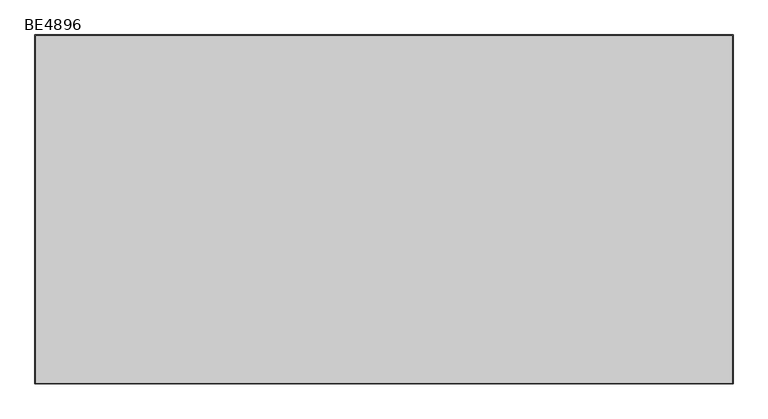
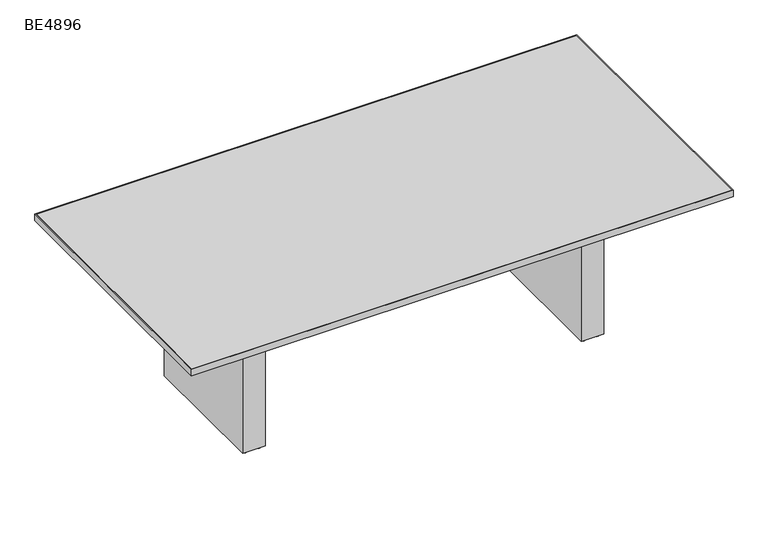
"""IFC4 building model written with IfcOpenShell, lengths in millimetres: furniture geometry, ERG-Beta-Conference_Table-Rectangle : BE4896."""

from ifc_helpers import new_model, si_unit, point, frame, frame_2d, origin, origin_with_axes, place, context, project, spatial, polyline, circle_curve, trimmed, segment, composite_curve, outline, extrude, source, transform, mapped, element, save


def be4896_64fea685(model_context):
    return source(origin(), model_context, "Body", "SweptSolid", [
        extrude(outline(composite_curve([segment(trimmed(circle_curve(frame_2d((1273.175, 339.476527)), 9.525), [point((1263.65, 339.476527))], [point((1282.7, 339.476527))], False, "CARTESIAN"), True, "CONTINUOUS"), segment(trimmed(circle_curve(frame_2d((1273.175, 339.476527)), 9.525), [point((1282.7, 339.476527))], [point((1263.65, 339.476527))], False, "CARTESIAN"), True, "CONTINUOUS")], self_intersect=False)), origin_with_axes(), (0.0, 0.0, 1.0), 9.525),
        extrude(outline(composite_curve([segment(trimmed(circle_curve(frame_2d((1336.675, 339.476527)), 9.525), [point((1327.15, 339.476527))], [point((1346.2, 339.476527))], False, "CARTESIAN"), True, "CONTINUOUS"), segment(trimmed(circle_curve(frame_2d((1336.675, 339.476527)), 9.525), [point((1346.2, 339.476527))], [point((1327.15, 339.476527))], False, "CARTESIAN"), True, "CONTINUOUS")], self_intersect=False)), origin_with_axes(), (0.0, 0.0, 1.0), 9.525),
        extrude(outline(composite_curve([segment(trimmed(circle_curve(frame_2d((1273.175, -232.023473)), 9.525), [point((1263.65, -232.023473))], [point((1282.7, -232.023473))], False, "CARTESIAN"), True, "CONTINUOUS"), segment(trimmed(circle_curve(frame_2d((1273.175, -232.023473)), 9.525), [point((1282.7, -232.023473))], [point((1263.65, -232.023473))], False, "CARTESIAN"), True, "CONTINUOUS")], self_intersect=False)), origin_with_axes(), (0.0, 0.0, 1.0), 9.525),
        extrude(outline(composite_curve([segment(trimmed(circle_curve(frame_2d((1336.675, -232.023473)), 9.525), [point((1327.15, -232.023473))], [point((1346.2, -232.023473))], False, "CARTESIAN"), True, "CONTINUOUS"), segment(trimmed(circle_curve(frame_2d((1336.675, -232.023473)), 9.525), [point((1346.2, -232.023473))], [point((1327.15, -232.023473))], False, "CARTESIAN"), True, "CONTINUOUS")], self_intersect=False)), origin_with_axes(), (0.0, 0.0, 1.0), 9.525),
        extrude(outline(polyline([(1355.725, 358.526527), (1355.725, -251.073473), (1254.125, -251.073473), (1254.125, 358.526527), (1355.725, 358.526527)])), frame((0.0, 0.0, 9.525), z_axis=(0.0, 0.0, 1.0), x_axis=(1.0, 0.0, 0.0)), (0.0, 0.0, 1.0), 695.3249758),
        extrude(outline(composite_curve([segment(trimmed(circle_curve(frame_2d((-250.825, 339.476527)), 9.525), [point((-260.35, 339.476527))], [point((-241.3, 339.476527))], False, "CARTESIAN"), True, "CONTINUOUS"), segment(trimmed(circle_curve(frame_2d((-250.825, 339.476527)), 9.525), [point((-241.3, 339.476527))], [point((-260.35, 339.476527))], False, "CARTESIAN"), True, "CONTINUOUS")], self_intersect=False)), origin_with_axes(), (0.0, 0.0, 1.0), 9.525),
        extrude(outline(composite_curve([segment(trimmed(circle_curve(frame_2d((-187.325, 339.476527)), 9.525), [point((-196.85, 339.476527))], [point((-177.8, 339.476527))], False, "CARTESIAN"), True, "CONTINUOUS"), segment(trimmed(circle_curve(frame_2d((-187.325, 339.476527)), 9.525), [point((-177.8, 339.476527))], [point((-196.85, 339.476527))], False, "CARTESIAN"), True, "CONTINUOUS")], self_intersect=False)), origin_with_axes(), (0.0, 0.0, 1.0), 9.525),
        extrude(outline(composite_curve([segment(trimmed(circle_curve(frame_2d((-250.825, -232.023473)), 9.525), [point((-260.35, -232.023473))], [point((-241.3, -232.023473))], False, "CARTESIAN"), True, "CONTINUOUS"), segment(trimmed(circle_curve(frame_2d((-250.825, -232.023473)), 9.525), [point((-241.3, -232.023473))], [point((-260.35, -232.023473))], False, "CARTESIAN"), True, "CONTINUOUS")], self_intersect=False)), origin_with_axes(), (0.0, 0.0, 1.0), 9.525),
        extrude(outline(composite_curve([segment(trimmed(circle_curve(frame_2d((-187.325, -232.023473)), 9.525), [point((-196.85, -232.023473))], [point((-177.8, -232.023473))], False, "CARTESIAN"), True, "CONTINUOUS"), segment(trimmed(circle_curve(frame_2d((-187.325, -232.023473)), 9.525), [point((-177.8, -232.023473))], [point((-196.85, -232.023473))], False, "CARTESIAN"), True, "CONTINUOUS")], self_intersect=False)), origin_with_axes(), (0.0, 0.0, 1.0), 9.525),
        extrude(outline(polyline([(-168.275, 358.526527), (-168.275, -251.073473), (-269.875, -251.073473), (-269.875, 358.526527), (-168.275, 358.526527)])), frame((0.0, 0.0, 9.525), z_axis=(0.0, 0.0, 1.0), x_axis=(1.0, 0.0, 0.0)), (0.0, 0.0, 1.0), 695.3249758),
        extrude(outline(polyline([(1762.125, -555.873473), (-676.275, -555.873473), (-676.275, 663.326527), (1762.125, 663.326527), (1762.125, -555.873473)]), holes=[polyline([(1758.95, 660.151527), (-673.1, 660.151527), (-673.1, -552.698473), (1758.95, -552.698473), (1758.95, 660.151527)])]), frame((0.0, 0.0, 704.85), z_axis=(0.0, 0.0, 1.0), x_axis=(1.0, 0.0, 0.0)), (0.0, 0.0, 1.0), 31.75),
        extrude(outline(polyline([(1758.95, -552.698473), (-673.1, -552.698473), (-673.1, 660.151527), (1758.95, 660.151527), (1758.95, -552.698473)])), frame((0.0, 0.0, 704.85), z_axis=(0.0, 0.0, 1.0), x_axis=(1.0, 0.0, 0.0)), (0.0, 0.0, 1.0), 31.75),
    ])


if __name__ == "__main__":
    model = new_model("IFC4")
    model_context = context("Model", 3, world=origin())
    ifc_project = project(units=[si_unit("LENGTHUNIT", "METRE", prefix="MILLI")], contexts=[model_context])
    site = spatial("IfcSite", under=ifc_project)
    building = spatial("IfcBuilding", under=site)
    placement = place(None, origin())
    be4896_shape = be4896_64fea685(model_context)
    element("IfcFurniture", 1, ObjectType="ERG-Beta-Conference_Table-Rectangle : BE4896", at=placement, inside=building, context=model_context, shape_type="MappedRepresentation", body=[
        mapped(be4896_shape, transform((0.0, 0.0, 0.0), x_axis=(1.0, 0.0, 0.0), y_axis=(0.0, 1.0, 0.0), z_axis=(0.0, 0.0, 1.0))),
    ])
    save(model, "model.ifc")
